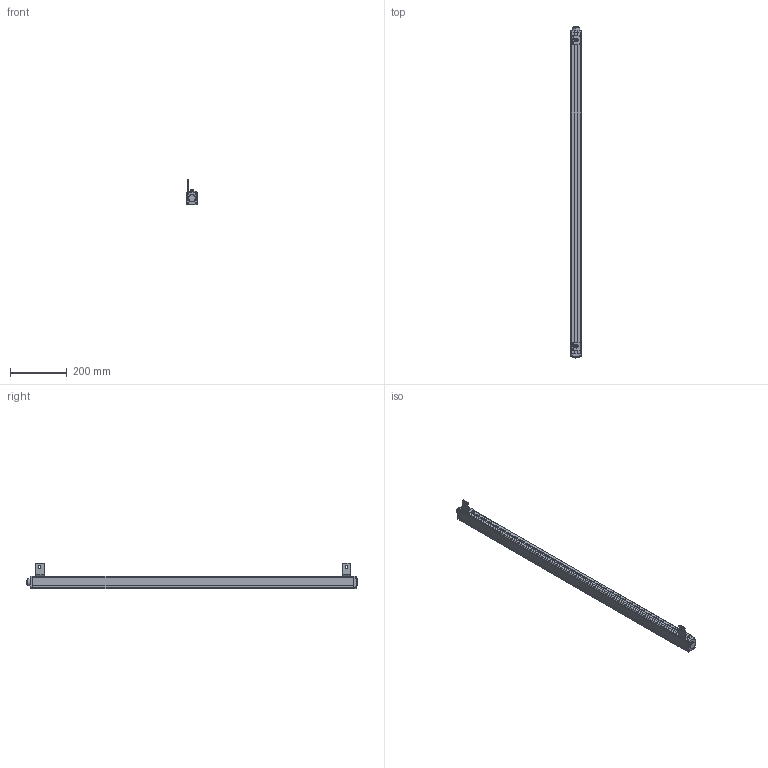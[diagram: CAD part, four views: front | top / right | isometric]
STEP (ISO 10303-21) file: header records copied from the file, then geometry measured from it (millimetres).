
FILE_DESCRIPTION((''),'2;1');
FILE_NAME('ESCL-00_ASM','2021-07-16T15:11:48',('18720616900'),(''),'CREO PARAMETRIC BY PTC INC, 2019010','CREO PARAMETRIC BY PTC INC, 2019010','');
FILE_SCHEMA(('CONFIG_CONTROL_DESIGN'));
Products named in the file (12): ESCL-00; ESCL-3-SOLID1000; ESCL-4-SOLID1000; HKCT1_-4-SOLID1; L10001; M6-8--0001; M6-1--00; M6-1-00; 00; M6-80001_ASM; L1--0001_ASM; ESCL-00_ASM
Assembly tree (12 placements, depth 4):
  ESCL-00_ASM
    ESCL-00
    ESCL-3-SOLID1000
    ESCL-4-SOLID1000
    HKCT1_-4-SOLID1
    L1--0001_ASM  x2
      L10001
      M6-80001_ASM
        M6-8--0001
        M6-1--00
        M6-1-00
        00
Bounding box: 36.1 x 1165.1 x 91.11 mm (x, y, z)
Volume: 1684886.5 mm3; surface area: 246952.8 mm2
Topology: 14 solids, 14 shells, 629 faces, 1657 edges, 1078 vertices
Faces by surface type: plane 228, cylinder 210, cone 78, bspline 66, torus 47
Entity records: 76313 total; most frequent: CARTESIAN_POINT 64015, ORIENTED_EDGE 2688, DIRECTION 2299, EDGE_CURVE 1344, VERTEX_POINT 880, AXIS2_PLACEMENT_3D 824, VECTOR 651, LINE 651
